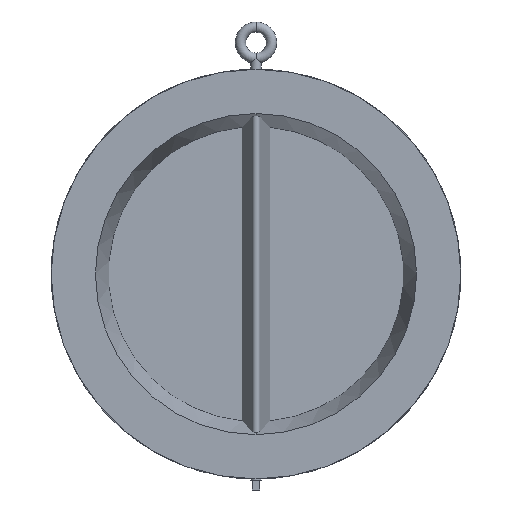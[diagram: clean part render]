
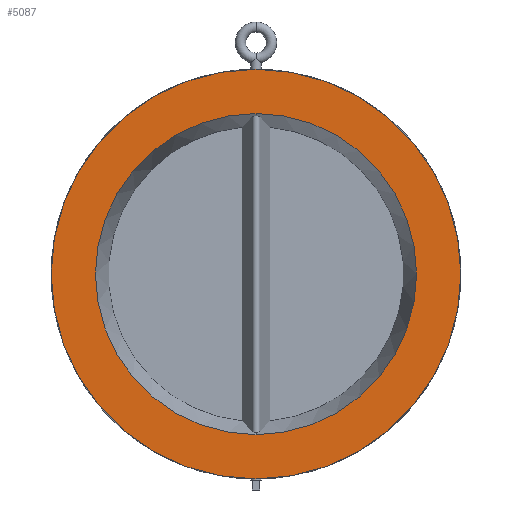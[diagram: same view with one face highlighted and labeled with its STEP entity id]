
A CAD part, front view. The second image highlights one B-rep face of the part: STEP entity #5087.
In plain terms, the highlighted planar face has unit normal (0, -1, 0).
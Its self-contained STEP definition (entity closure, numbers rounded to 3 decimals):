
#51 = CARTESIAN_POINT ( 'NONE',  ( 0., 0., -277.5 ) ) ;
#66 = AXIS2_PLACEMENT_3D ( 'NONE', #68, #119, #118 ) ;
#68 = CARTESIAN_POINT ( 'NONE',  ( 0., 0., 0. ) ) ;
#72 = CARTESIAN_POINT ( 'NONE',  ( 0., 0., 277.5 ) ) ;
#87 = CIRCLE ( 'NONE', #66, 277.5 ) ;
#118 = DIRECTION ( 'NONE',  ( 0., 0., -1. ) ) ;
#119 = DIRECTION ( 'NONE',  ( 0., -1., 0. ) ) ;
#331 = CIRCLE ( 'NONE', #451, 277.5 ) ;
#448 = DIRECTION ( 'NONE',  ( 0., 0., -1. ) ) ;
#449 = DIRECTION ( 'NONE',  ( 0., -1., 0. ) ) ;
#450 = CARTESIAN_POINT ( 'NONE',  ( 0., 0., 0. ) ) ;
#451 = AXIS2_PLACEMENT_3D ( 'NONE', #450, #449, #448 ) ;
#1480 = FACE_OUTER_BOUND ( 'NONE', #5054, .T. ) ;
#1482 = DIRECTION ( 'NONE',  ( 0., 0., -1. ) ) ;
#1483 = DIRECTION ( 'NONE',  ( 0., -1., 0. ) ) ;
#1484 = CARTESIAN_POINT ( 'NONE',  ( 0., 0., 0. ) ) ;
#1485 = AXIS2_PLACEMENT_3D ( 'NONE', #1484, #1483, #1482 ) ;
#1487 = FACE_BOUND ( 'NONE', #5079, .T. ) ;
#1490 = CIRCLE ( 'NONE', #1485, 217.5 ) ;
#1501 = CARTESIAN_POINT ( 'NONE',  ( -217.5, 0., 0. ) ) ;
#1507 = PLANE ( 'NONE',  #1527 ) ;
#1527 = AXIS2_PLACEMENT_3D ( 'NONE', #1501, #1562, #1561 ) ;
#1561 = DIRECTION ( 'NONE',  ( 0., 0., 1. ) ) ;
#1562 = DIRECTION ( 'NONE',  ( 0., 1., 0. ) ) ;
#3207 = CARTESIAN_POINT ( 'NONE',  ( 0., 0., -217.5 ) ) ;
#3329 = CARTESIAN_POINT ( 'NONE',  ( 0., 0., 217.5 ) ) ;
#3331 = CIRCLE ( 'NONE', #3352, 217.5 ) ;
#3332 = CARTESIAN_POINT ( 'NONE',  ( 0., 0., 0. ) ) ;
#3352 = AXIS2_PLACEMENT_3D ( 'NONE', #3332, #3384, #3378 ) ;
#3378 = DIRECTION ( 'NONE',  ( 0., 0., -1. ) ) ;
#3384 = DIRECTION ( 'NONE',  ( 0., -1., 0. ) ) ;
#3818 = VERTEX_POINT ( 'NONE', #51 ) ;
#3822 = EDGE_CURVE ( 'NONE', #3818, #3823, #87, .T. ) ;
#3823 = VERTEX_POINT ( 'NONE', #72 ) ;
#3897 = EDGE_CURVE ( 'NONE', #3823, #3818, #331, .T. ) ;
#5054 = EDGE_LOOP ( 'NONE', ( #5057, #5088 ) ) ;
#5057 = ORIENTED_EDGE ( 'NONE', *, *, #3822, .T. ) ;
#5063 = ORIENTED_EDGE ( 'NONE', *, *, #5068, .F. ) ;
#5068 = EDGE_CURVE ( 'NONE', #5900, #5943, #1490, .T. ) ;
#5079 = EDGE_LOOP ( 'NONE', ( #5063, #5120 ) ) ;
#5087 = ADVANCED_FACE ( 'NONE', ( #1480, #1487 ), #1507, .F. ) ;
#5088 = ORIENTED_EDGE ( 'NONE', *, *, #3897, .T. ) ;
#5120 = ORIENTED_EDGE ( 'NONE', *, *, #5941, .F. ) ;
#5900 = VERTEX_POINT ( 'NONE', #3207 ) ;
#5941 = EDGE_CURVE ( 'NONE', #5943, #5900, #3331, .T. ) ;
#5943 = VERTEX_POINT ( 'NONE', #3329 ) ;
